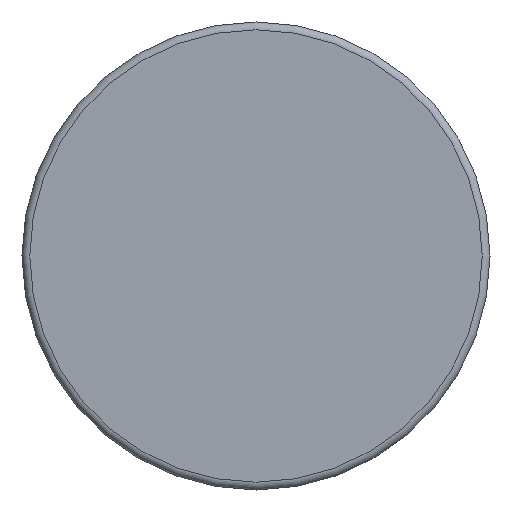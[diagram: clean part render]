
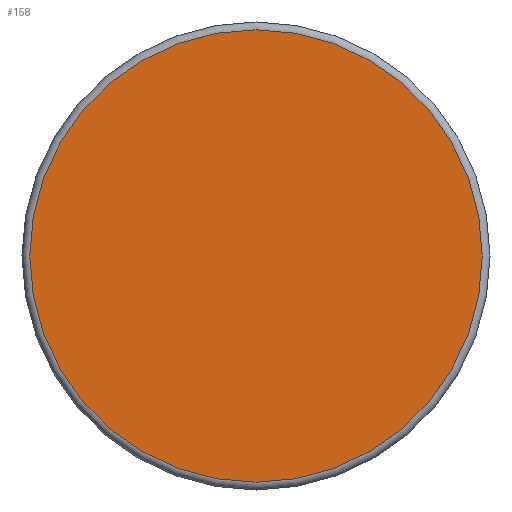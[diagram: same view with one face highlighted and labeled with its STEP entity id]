
A CAD part, front view. The second image highlights one B-rep face of the part: STEP entity #158.
In plain terms, the highlighted planar face has unit normal (0, -1, 0).
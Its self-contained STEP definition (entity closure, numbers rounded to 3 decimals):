
#158 = ADVANCED_FACE( '', ( #320 ), #321, .F. );
#320 = FACE_OUTER_BOUND( '', #516, .T. );
#321 = PLANE( '', #517 );
#516 = EDGE_LOOP( '', ( #749 ) );
#517 = AXIS2_PLACEMENT_3D( '', #750, #751, #752 );
#749 = ORIENTED_EDGE( '', *, *, #1133, .T. );
#750 = CARTESIAN_POINT( '', ( 29., 0., 0. ) );
#751 = DIRECTION( '', ( 0., 1., 0. ) );
#752 = DIRECTION( '', ( 0., 0., 1. ) );
#1133 = EDGE_CURVE( '', #1321, #1321, #1322, .T. );
#1321 = VERTEX_POINT( '', #1657 );
#1322 = CIRCLE( '', #1658, 29. );
#1657 = CARTESIAN_POINT( '', ( 0., 0., -29. ) );
#1658 = AXIS2_PLACEMENT_3D( '', #2044, #2045, #2046 );
#2044 = CARTESIAN_POINT( '', ( 0., 0., 0. ) );
#2045 = DIRECTION( '', ( 0., -1., 0. ) );
#2046 = DIRECTION( '', ( 0., 0., -1. ) );
